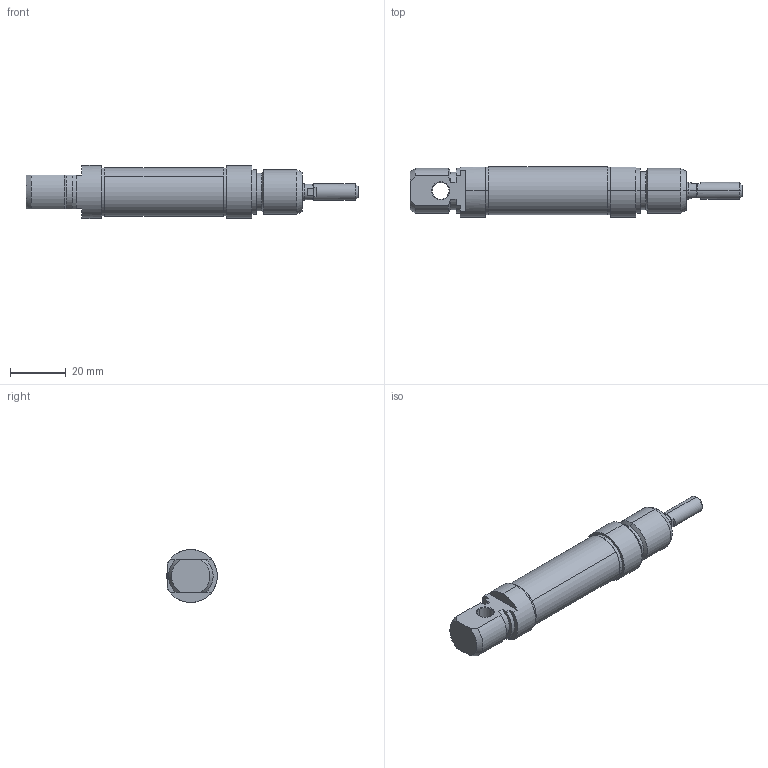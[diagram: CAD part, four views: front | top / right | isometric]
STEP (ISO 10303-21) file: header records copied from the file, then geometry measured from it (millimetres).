
FILE_DESCRIPTION (( 'STEP AP214' ), '1' );
FILE_NAME ('23_00211.STEP', '2017-01-03T15:20:47', ( '' ), ( '' ), 'SwSTEP 2.0', 'SolidWorks 2016', '' );
FILE_SCHEMA (( 'AUTOMOTIVE_DESIGN' ));
Length unit declared in the file: millimetre
Products named in the file (1): 23_00211
Bounding box: 119 x 18.13 x 19 mm (x, y, z)
Volume: 21949.5 mm3; surface area: 7628.7 mm2
Topology: 4 solids, 4 shells, 110 faces, 258 edges, 166 vertices
Faces by surface type: cylinder 50, plane 36, cone 22, bspline 2
Entity records: 4669 total; most frequent: CARTESIAN_POINT 799, DIRECTION 580, ORIENTED_EDGE 516, EDGE_CURVE 258, AXIS2_PLACEMENT_3D 233, VERTEX_POINT 166, CIRCLE 124, EDGE_LOOP 122
